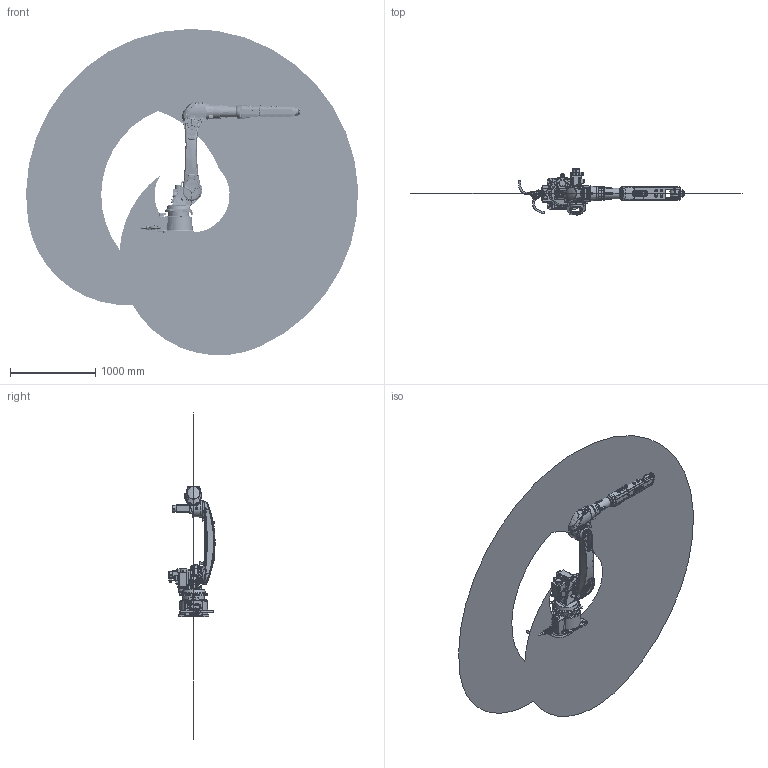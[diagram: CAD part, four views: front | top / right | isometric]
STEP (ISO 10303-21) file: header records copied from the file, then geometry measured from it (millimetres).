
FILE_DESCRIPTION(/* description */ (''),/* implementation_level */ '2;1');
FILE_NAME(/* name */ 'NB25s-1221 简化模型.stp',/* time_stamp */ '2022-11-16T16:05:39+08:00',/* author */ (''),/* organization */ (''),/* preprocessor_version */ 'ST-DEVELOPER v16',/* originating_system */ 'SIEMENS PLM Software NX 10.0',/* authorisation */ '');
FILE_SCHEMA (('CONFIG_CONTROL_DESIGN'));
Products named in the file (9): NB25s-3DWork-A; NB25s-shuchu-A; NB25s-shouwan-A; NB25s-xiaobiqian-Alogo; NB25s-xiaobihou-A; NB25s-dabi-A; NB25s-yao-A; NB25s-base-A; NB25s-1221 简化模型
Assembly tree (8 placements, depth 2):
  NB25s-1221 简化模型
    NB25s-base-A
    NB25s-yao-A
    NB25s-dabi-A
    NB25s-xiaobihou-A
    NB25s-xiaobiqian-Alogo
    NB25s-shouwan-A
    NB25s-shuchu-A
    NB25s-3DWork-A
Bounding box: 3897.03 x 541.74 x 3828.57 mm (x, y, z)
Volume: 80210872.1 mm3; surface area: 13614853.3 mm2
Topology: 23 solids, 53 shells, 6376 faces, 15681 edges, 9732 vertices
Faces by surface type: plane 2248, cylinder 1618, bspline 1339, cone 531, torus 384, extrusion 138, sphere 118
Full cylindrical faces by diameter (mm): 2.5 x4, 3.3 x2, 4.2 x8, 4.75 x4, 5 x20, 5.1 x4, 5.13 x8, 5.5 x38, 5.6 x15, 6 x1, 6.6 x2, 6.725 x4, 6.8 x28, 7 x37, 7.76 x12, 7.782 x2, 8.5 x2, 9 x12, 9.728 x2, 9.732 x2, 10 x24, 10.272 x2, 10.3 x8, 11 x4, 11.2 x1, 12.42 x1, 13 x39, 13.5 x1, 14 x10, 15 x2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
Entity records: 255706 total; most frequent: CARTESIAN_POINT 118927, ORIENTED_EDGE 28747, DIRECTION 25832, EDGE_CURVE 14377, AXIS2_PLACEMENT_3D 10034, VERTEX_POINT 9386, EDGE_LOOP 7688, ADVANCED_FACE 6376
